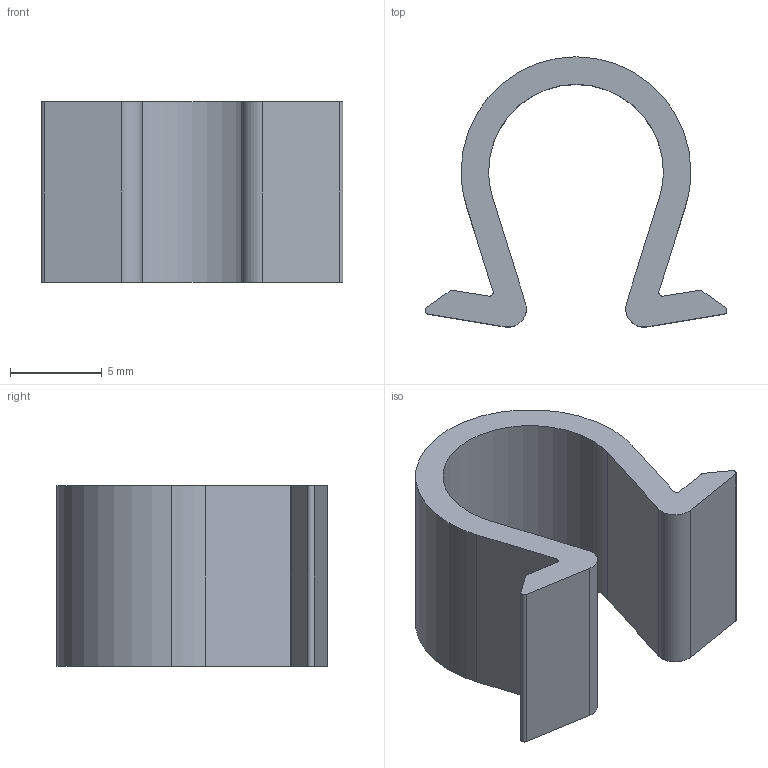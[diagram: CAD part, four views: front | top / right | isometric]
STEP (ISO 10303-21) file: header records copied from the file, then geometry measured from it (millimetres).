
FILE_DESCRIPTION (( 'STEP AP214' ), '1' );
FILE_NAME ('6.04.spcc.STEP', '2015-06-04T13:00:04', ( '' ), ( '' ), 'SwSTEP 2.0', 'SolidWorks 2015', '' );
FILE_SCHEMA (( 'AUTOMOTIVE_DESIGN' ));
Length unit declared in the file: millimetre
Products named in the file (1): 6.04.spcc
Bounding box: 16.4 x 14.7 x 9.8 mm (x, y, z)
Volume: 607.5 mm3; surface area: 953.8 mm2
Topology: 1 solids, 1 shells, 29 faces, 81 edges, 54 vertices
Faces by surface type: cylinder 17, plane 12
Entity records: 983 total; most frequent: DIRECTION 175, CARTESIAN_POINT 165, ORIENTED_EDGE 162, EDGE_CURVE 81, AXIS2_PLACEMENT_3D 64, VERTEX_POINT 54, LINE 47, VECTOR 47
